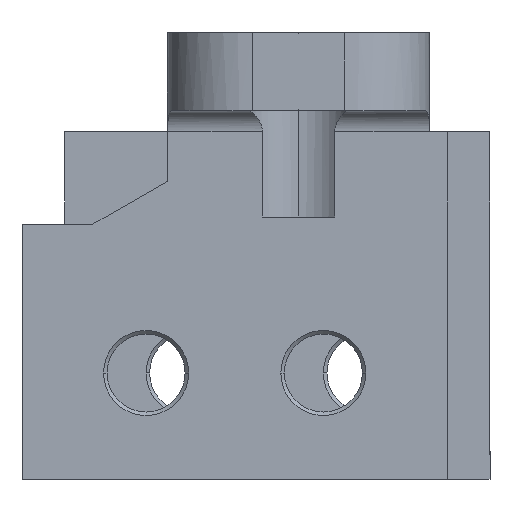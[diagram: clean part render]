
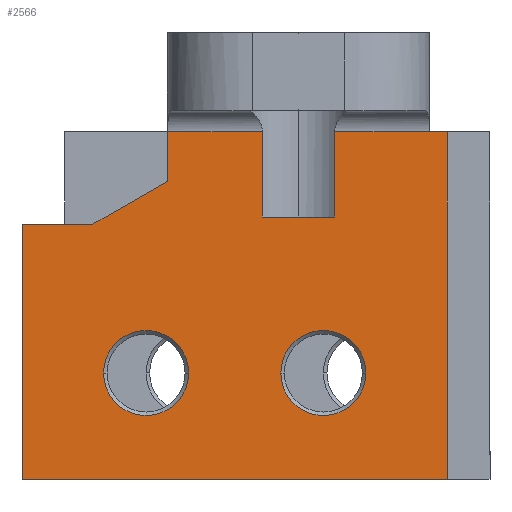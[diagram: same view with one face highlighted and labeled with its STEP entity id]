
A CAD part, left-side view. The second image highlights one B-rep face of the part: STEP entity #2566.
In plain terms, the highlighted planar face has unit normal (-1, 0, 0).
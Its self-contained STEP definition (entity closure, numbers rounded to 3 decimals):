
#1 = LINE ( 'NONE', #2885, #2211 ) ;
#83 = FACE_BOUND ( 'NONE', #1500, .T. ) ;
#93 = VERTEX_POINT ( 'NONE', #4473 ) ;
#108 = DIRECTION ( 'NONE',  ( 1., 0., 0. ) ) ;
#126 = ORIENTED_EDGE ( 'NONE', *, *, #5074, .T. ) ;
#145 = CARTESIAN_POINT ( 'NONE',  ( -147.5, 60.75, -144.5 ) ) ;
#215 = VERTEX_POINT ( 'NONE', #258 ) ;
#258 = CARTESIAN_POINT ( 'NONE',  ( -147.5, 97.25, -159.5 ) ) ;
#302 = LINE ( 'NONE', #4231, #5603 ) ;
#338 = EDGE_CURVE ( 'NONE', #1360, #4455, #4708, .T. ) ;
#347 = DIRECTION ( 'NONE',  ( 0., -1., 0. ) ) ;
#471 = LINE ( 'NONE', #888, #6647 ) ;
#578 = CARTESIAN_POINT ( 'NONE',  ( -147.5, 48.75, -144.5 ) ) ;
#649 = VECTOR ( 'NONE', #1925, 1000. ) ;
#660 = AXIS2_PLACEMENT_3D ( 'NONE', #1902, #6066, #347 ) ;
#745 = VERTEX_POINT ( 'NONE', #3070 ) ;
#809 = CARTESIAN_POINT ( 'NONE',  ( -147.5, 63.349, -110.5 ) ) ;
#842 = VERTEX_POINT ( 'NONE', #2051 ) ;
#888 = CARTESIAN_POINT ( 'NONE',  ( -147.5, 37.25, -159.5 ) ) ;
#985 = LINE ( 'NONE', #3104, #2829 ) ;
#1019 = CARTESIAN_POINT ( 'NONE',  ( -147.5, 63.349, -122.5 ) ) ;
#1221 = DIRECTION ( 'NONE',  ( 0., 1., 0. ) ) ;
#1349 = DIRECTION ( 'NONE',  ( 0., 0., -1. ) ) ;
#1360 = VERTEX_POINT ( 'NONE', #578 ) ;
#1425 = DIRECTION ( 'NONE',  ( 0., 0., 1. ) ) ;
#1438 = EDGE_CURVE ( 'NONE', #93, #1632, #2222, .T. ) ;
#1500 = EDGE_LOOP ( 'NONE', ( #4736, #3160 ) ) ;
#1544 = DIRECTION ( 'NONE',  ( 0., 0., 1. ) ) ;
#1556 = LINE ( 'NONE', #2957, #3371 ) ;
#1622 = DIRECTION ( 'NONE',  ( 0., -1., 0. ) ) ;
#1632 = VERTEX_POINT ( 'NONE', #4139 ) ;
#1639 = CIRCLE ( 'NONE', #2510, 6. ) ;
#1725 = CIRCLE ( 'NONE', #3182, 6. ) ;
#1782 = VERTEX_POINT ( 'NONE', #5251 ) ;
#1796 = VECTOR ( 'NONE', #1622, 1000. ) ;
#1876 = ORIENTED_EDGE ( 'NONE', *, *, #4805, .T. ) ;
#1890 = DIRECTION ( 'NONE',  ( 0., -1., 0. ) ) ;
#1902 = CARTESIAN_POINT ( 'NONE',  ( -147.5, 57., -96.5 ) ) ;
#1925 = DIRECTION ( 'NONE',  ( 0., 0., -1. ) ) ;
#1937 = EDGE_CURVE ( 'NONE', #6038, #5129, #1725, .T. ) ;
#1939 = ORIENTED_EDGE ( 'NONE', *, *, #3634, .T. ) ;
#1941 = CARTESIAN_POINT ( 'NONE',  ( -147.5, 76.708, -117.476 ) ) ;
#2010 = DIRECTION ( 'NONE',  ( 0., 0.868, -0.496 ) ) ;
#2051 = CARTESIAN_POINT ( 'NONE',  ( -147.5, 53.151, -122.5 ) ) ;
#2142 = CARTESIAN_POINT ( 'NONE',  ( -147.5, 57., -122.5 ) ) ;
#2168 = EDGE_CURVE ( 'NONE', #1632, #5065, #1, .T. ) ;
#2211 = VECTOR ( 'NONE', #4477, 1000. ) ;
#2222 = LINE ( 'NONE', #4859, #6201 ) ;
#2280 = AXIS2_PLACEMENT_3D ( 'NONE', #3075, #6238, #6212 ) ;
#2342 = VERTEX_POINT ( 'NONE', #4778 ) ;
#2510 = AXIS2_PLACEMENT_3D ( 'NONE', #4148, #4118, #4656 ) ;
#2566 = ADVANCED_FACE ( 'NONE', ( #83, #5471, #4087 ), #4519, .F. ) ;
#2568 = EDGE_CURVE ( 'NONE', #5344, #215, #6581, .T. ) ;
#2663 = LINE ( 'NONE', #4051, #2919 ) ;
#2688 = VECTOR ( 'NONE', #1890, 1000. ) ;
#2771 = DIRECTION ( 'NONE',  ( 0., -1., 0. ) ) ;
#2829 = VECTOR ( 'NONE', #2010, 1000. ) ;
#2885 = CARTESIAN_POINT ( 'NONE',  ( -147.5, 57., -110.5 ) ) ;
#2919 = VECTOR ( 'NONE', #5162, 1000. ) ;
#2937 = CARTESIAN_POINT ( 'NONE',  ( -147.5, 53.151, -110.5 ) ) ;
#2957 = CARTESIAN_POINT ( 'NONE',  ( -147.5, 76.708, -110.5 ) ) ;
#2966 = LINE ( 'NONE', #4696, #6514 ) ;
#3002 = ORIENTED_EDGE ( 'NONE', *, *, #2168, .T. ) ;
#3007 = ORIENTED_EDGE ( 'NONE', *, *, #3185, .T. ) ;
#3070 = CARTESIAN_POINT ( 'NONE',  ( -147.5, 76.708, -110.5 ) ) ;
#3075 = CARTESIAN_POINT ( 'NONE',  ( -147.5, 54.75, -144.5 ) ) ;
#3104 = CARTESIAN_POINT ( 'NONE',  ( -147.5, 76.75, -117.5 ) ) ;
#3160 = ORIENTED_EDGE ( 'NONE', *, *, #3974, .T. ) ;
#3182 = AXIS2_PLACEMENT_3D ( 'NONE', #3855, #108, #2771 ) ;
#3185 = EDGE_CURVE ( 'NONE', #5054, #745, #5185, .T. ) ;
#3209 = LINE ( 'NONE', #2142, #1796 ) ;
#3251 = ORIENTED_EDGE ( 'NONE', *, *, #3488, .F. ) ;
#3371 = VECTOR ( 'NONE', #1349, 1000. ) ;
#3413 = ORIENTED_EDGE ( 'NONE', *, *, #3531, .T. ) ;
#3473 = ORIENTED_EDGE ( 'NONE', *, *, #1438, .T. ) ;
#3488 = EDGE_CURVE ( 'NONE', #5054, #6614, #2663, .T. ) ;
#3531 = EDGE_CURVE ( 'NONE', #5607, #1782, #985, .T. ) ;
#3556 = EDGE_CURVE ( 'NONE', #4455, #1360, #1639, .T. ) ;
#3634 = EDGE_CURVE ( 'NONE', #1782, #5344, #2966, .T. ) ;
#3844 = EDGE_LOOP ( 'NONE', ( #4552, #3413, #1939, #6573, #126, #1876, #3473, #3002, #6611, #4447, #3251, #3007 ) ) ;
#3855 = CARTESIAN_POINT ( 'NONE',  ( -147.5, 79.75, -144.5 ) ) ;
#3935 = EDGE_CURVE ( 'NONE', #745, #5607, #1556, .T. ) ;
#3974 = EDGE_CURVE ( 'NONE', #5129, #6038, #5947, .T. ) ;
#4047 = EDGE_CURVE ( 'NONE', #6614, #842, #3209, .T. ) ;
#4051 = CARTESIAN_POINT ( 'NONE',  ( -147.5, 63.349, -122.5 ) ) ;
#4087 = FACE_OUTER_BOUND ( 'NONE', #3844, .T. ) ;
#4118 = DIRECTION ( 'NONE',  ( 1., 0., 0. ) ) ;
#4139 = CARTESIAN_POINT ( 'NONE',  ( -147.5, 39.792, -110.5 ) ) ;
#4148 = CARTESIAN_POINT ( 'NONE',  ( -147.5, 54.75, -144.5 ) ) ;
#4231 = CARTESIAN_POINT ( 'NONE',  ( -147.5, 53.151, -122.5 ) ) ;
#4363 = CARTESIAN_POINT ( 'NONE',  ( -147.5, 57., -110.5 ) ) ;
#4447 = ORIENTED_EDGE ( 'NONE', *, *, #4047, .F. ) ;
#4455 = VERTEX_POINT ( 'NONE', #145 ) ;
#4473 = CARTESIAN_POINT ( 'NONE',  ( -147.5, 37.25, -110.5 ) ) ;
#4477 = DIRECTION ( 'NONE',  ( 0., 1., 0. ) ) ;
#4519 = PLANE ( 'NONE',  #660 ) ;
#4522 = DIRECTION ( 'NONE',  ( 0., -1., 0. ) ) ;
#4552 = ORIENTED_EDGE ( 'NONE', *, *, #3935, .T. ) ;
#4656 = DIRECTION ( 'NONE',  ( 0., -1., 0. ) ) ;
#4696 = CARTESIAN_POINT ( 'NONE',  ( -147.5, 87.25, -123.5 ) ) ;
#4708 = CIRCLE ( 'NONE', #2280, 6. ) ;
#4736 = ORIENTED_EDGE ( 'NONE', *, *, #1937, .T. ) ;
#4778 = CARTESIAN_POINT ( 'NONE',  ( -147.5, 37.25, -159.5 ) ) ;
#4797 = AXIS2_PLACEMENT_3D ( 'NONE', #6050, #6564, #4522 ) ;
#4805 = EDGE_CURVE ( 'NONE', #2342, #93, #471, .T. ) ;
#4859 = CARTESIAN_POINT ( 'NONE',  ( -147.5, 57., -110.5 ) ) ;
#4930 = ORIENTED_EDGE ( 'NONE', *, *, #338, .T. ) ;
#5017 = CARTESIAN_POINT ( 'NONE',  ( -147.5, 97.25, -159.5 ) ) ;
#5029 = ORIENTED_EDGE ( 'NONE', *, *, #3556, .T. ) ;
#5054 = VERTEX_POINT ( 'NONE', #809 ) ;
#5056 = CARTESIAN_POINT ( 'NONE',  ( -147.5, 97.25, -123.5 ) ) ;
#5065 = VERTEX_POINT ( 'NONE', #2937 ) ;
#5074 = EDGE_CURVE ( 'NONE', #215, #2342, #6165, .T. ) ;
#5096 = VECTOR ( 'NONE', #1221, 1000. ) ;
#5129 = VERTEX_POINT ( 'NONE', #5517 ) ;
#5162 = DIRECTION ( 'NONE',  ( 0., 0., -1. ) ) ;
#5185 = LINE ( 'NONE', #4363, #5096 ) ;
#5251 = CARTESIAN_POINT ( 'NONE',  ( -147.5, 87.25, -123.5 ) ) ;
#5344 = VERTEX_POINT ( 'NONE', #5690 ) ;
#5401 = EDGE_CURVE ( 'NONE', #842, #5065, #302, .T. ) ;
#5416 = DIRECTION ( 'NONE',  ( 0., 1., 0. ) ) ;
#5471 = FACE_BOUND ( 'NONE', #6020, .T. ) ;
#5517 = CARTESIAN_POINT ( 'NONE',  ( -147.5, 73.75, -144.5 ) ) ;
#5603 = VECTOR ( 'NONE', #1544, 1000. ) ;
#5607 = VERTEX_POINT ( 'NONE', #1941 ) ;
#5690 = CARTESIAN_POINT ( 'NONE',  ( -147.5, 97.25, -123.5 ) ) ;
#5696 = CARTESIAN_POINT ( 'NONE',  ( -147.5, 85.75, -144.5 ) ) ;
#5947 = CIRCLE ( 'NONE', #4797, 6. ) ;
#6020 = EDGE_LOOP ( 'NONE', ( #5029, #4930 ) ) ;
#6038 = VERTEX_POINT ( 'NONE', #5696 ) ;
#6050 = CARTESIAN_POINT ( 'NONE',  ( -147.5, 79.75, -144.5 ) ) ;
#6066 = DIRECTION ( 'NONE',  ( 1., 0., 0. ) ) ;
#6165 = LINE ( 'NONE', #5017, #2688 ) ;
#6201 = VECTOR ( 'NONE', #5416, 1000. ) ;
#6212 = DIRECTION ( 'NONE',  ( 0., -1., 0. ) ) ;
#6238 = DIRECTION ( 'NONE',  ( 1., 0., 0. ) ) ;
#6284 = DIRECTION ( 'NONE',  ( 0., 1., 0. ) ) ;
#6514 = VECTOR ( 'NONE', #6284, 1000. ) ;
#6564 = DIRECTION ( 'NONE',  ( 1., 0., 0. ) ) ;
#6573 = ORIENTED_EDGE ( 'NONE', *, *, #2568, .T. ) ;
#6581 = LINE ( 'NONE', #5056, #649 ) ;
#6611 = ORIENTED_EDGE ( 'NONE', *, *, #5401, .F. ) ;
#6614 = VERTEX_POINT ( 'NONE', #1019 ) ;
#6647 = VECTOR ( 'NONE', #1425, 1000. ) ;
